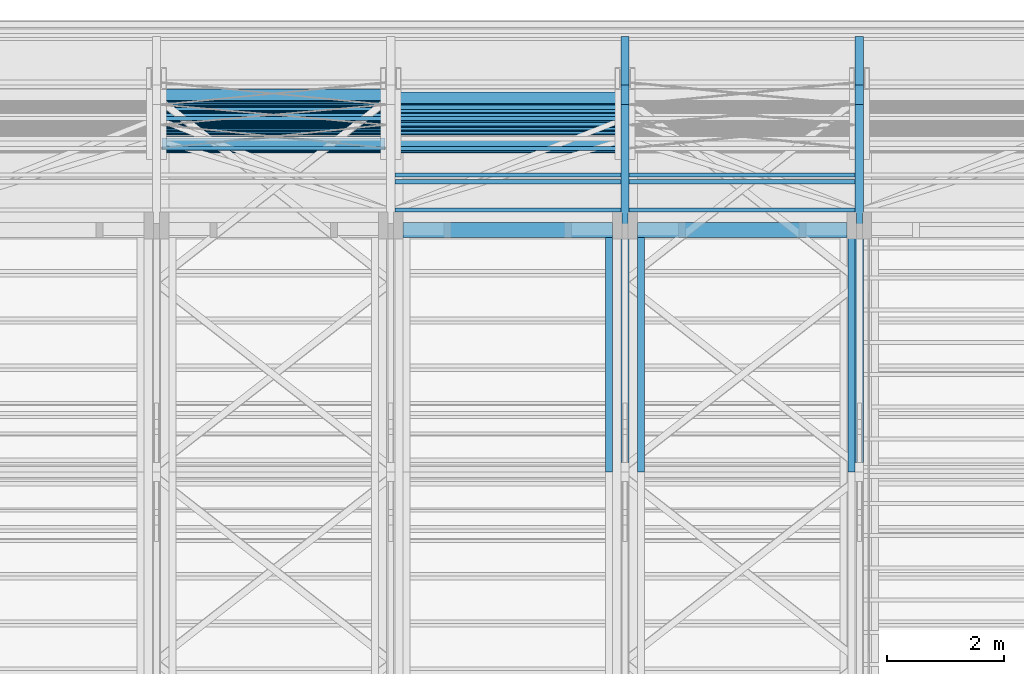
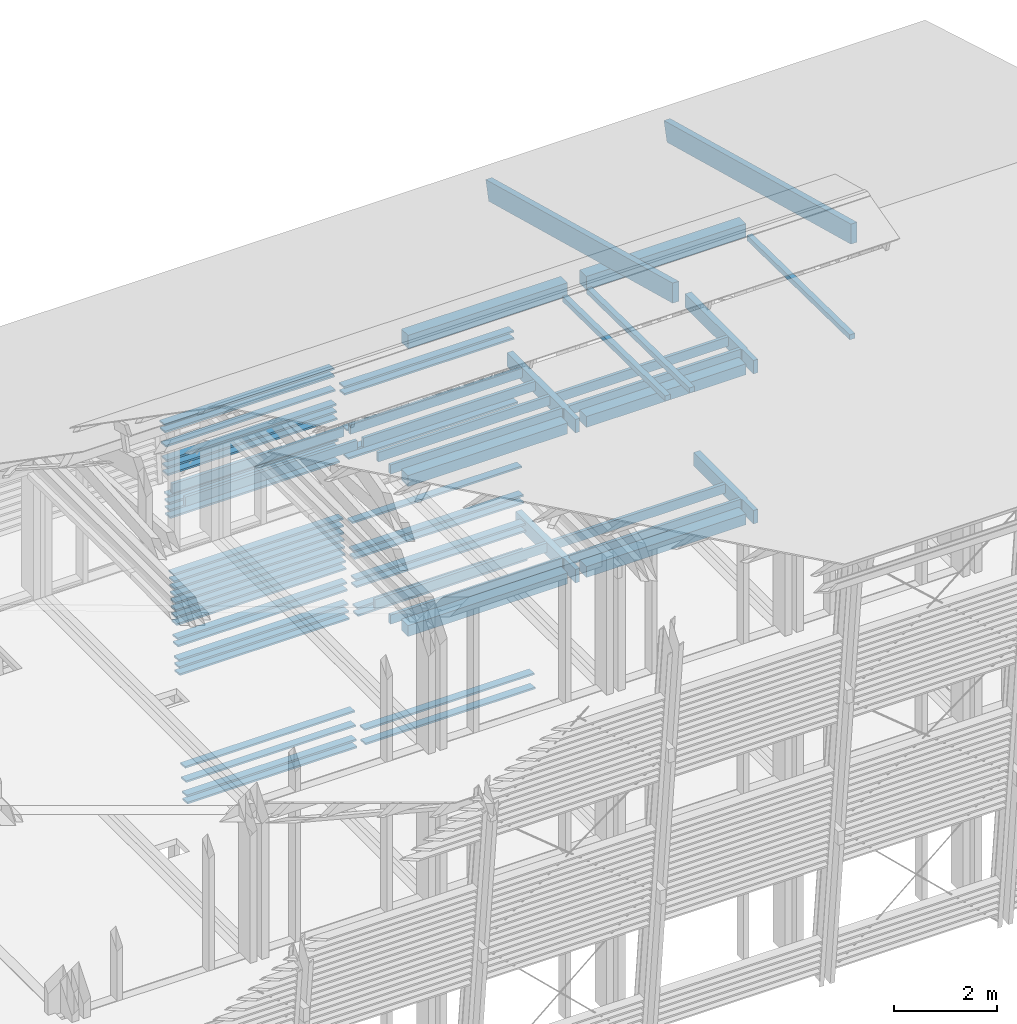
# One storey, part 25 of 48: 68 beams.
"""IFC2X3 building model written with IfcOpenShell, lengths in metres."""

from ifc_helpers import new_model, si_unit, direction, frame, origin_with_axes, place, context, subcontext, project, spatial, faceted_brep, material, element, save


model = new_model("IFC2X3")

# Units and contexts
model_context = context("Model", 3, precision=1e-06, world=origin_with_axes(), true_north=direction((0.0, 1.0, 0.0)))
body_context = subcontext(model_context, "Body", "Model", "MODEL_VIEW")
ifc_project = project(units=[si_unit("LENGTHUNIT", "METRE"), si_unit("AREAUNIT", "SQUARE_METRE"), si_unit("VOLUMEUNIT", "CUBIC_METRE"), si_unit("PLANEANGLEUNIT", "RADIAN")], contexts=[model_context])

# Site, building, storey
site_placement = place(None, origin_with_axes())
site = spatial("IfcSite", under=ifc_project, at=site_placement, CompositionType="ELEMENT")
building_placement = place(site_placement, origin_with_axes())
building = spatial("IfcBuilding", under=site, at=building_placement, Name="Building 1", CompositionType="ELEMENT")
storey_placement = place(building_placement, origin_with_axes())
storey = spatial("IfcBuildingStorey", under=building, at=storey_placement, Name="Storey 1", CompositionType="ELEMENT", Elevation=0.0)

# Beams
ifc_material_1 = material(Name="Moabi")
for number, where, z_axis, x_axis, name in (
    (1, (61.3927441, -182.8370582, 8.3510909), (0.0, -0.9945219, 0.1045285), (-1.0, 0.0, 0.0), "garde corp"),
    (2, (61.3927441, -182.9875792, 6.9189793), (0.0, -0.9945219, 0.1045285), (-1.0, 0.0, 0.0), "garde corp"),
    (3, (61.3927441, -182.920681, 7.5554733), (0.0, -0.9945219, 0.1045285), (-1.0, 0.0, 0.0), "garde corp"),
):
    element("IfcBeam", number, at=place(storey_placement, frame(where, z_axis=z_axis, x_axis=x_axis)), inside=storey, material=ifc_material_1, Name=name, context=body_context, shape_type="Brep", body=[
        faceted_brep([(3.806, -0.02, 0.1), (3.806, 0.02, 0.1), (0.0, 0.02, 0.1), (0.0, -0.02, 0.1), (3.806, 0.02, -0.1), (0.0, 0.02, -0.1), (3.806, -0.02, -0.1), (0.0, -0.02, -0.1)], [[[0, 1, 2, 3]], [[1, 4, 5, 2]], [[4, 6, 7, 5]], [[6, 0, 3, 7]], [[1, 0, 6, 4]], [[7, 3, 2, 5]]]),
    ])
ifc_material_2 = material(Name="GL28h")
for number, where, z_axis, x_axis, name in (
    (4, (61.2197437, -185.2055702, 10.7599677), (0.0, 0.0149983, 0.9998875), (0.0, -0.9998875, 0.0149983), "Sous-glace"),
    (5, (61.7597437, -185.2055702, 10.7599682), (0.0, 0.0149983, 0.9998875), (0.0, -0.9998875, 0.0149983), "Sous-glace"),
):
    element("IfcBeam", number, at=place(storey_placement, frame(where, z_axis=z_axis, x_axis=x_axis)), inside=storey, material=ifc_material_2, Name=name, context=body_context, shape_type="Brep", body=[
        faceted_brep([(4.0038138, -0.06, 0.06), (4.0020138, -0.06, -0.06), (4.0020138, 0.06, -0.06), (4.0038138, 0.06, 0.06), (0.0, -0.06, -0.06), (0.0, 0.06, -0.06), (0.0018, -0.06, 0.06), (0.0018, 0.06, 0.06)], [[[0, 1, 2, 3]], [[2, 1, 4, 5]], [[1, 0, 6, 4]], [[5, 4, 6, 7]], [[0, 3, 7, 6]], [[3, 2, 5, 7]]]),
    ])
beam_1_placement = place(storey_placement, frame((61.3927441, -182.9708546, 7.0781028), z_axis=(0.0, -0.9945219, 0.1045285), x_axis=(-1.0, 0.0, 0.0)))
element("IfcBeam", 6, at=beam_1_placement, inside=storey, material=ifc_material_1, Name="garde corp", context=body_context, shape_type="Brep", body=[
    faceted_brep([(3.806, -0.02, 0.1), (3.806, 0.02, 0.1), (0.0, 0.02, 0.1), (0.0, -0.02, 0.1), (3.806, 0.02, -0.1), (0.0, 0.02, -0.1), (3.806, -0.02, -0.1), (0.0, -0.02, -0.1)], [[[0, 1, 2, 3]], [[1, 4, 5, 2]], [[4, 6, 7, 5]], [[6, 0, 3, 7]], [[1, 0, 6, 4]], [[7, 3, 2, 5]]]),
])
beam_2_placement = place(storey_placement, frame((61.6997437, -185.0764881, 10.94), z_axis=(0.0, 0.0, 1.0), x_axis=(1.0, 0.0, 0.0)))
element("IfcBeam", 7, at=beam_2_placement, inside=storey, material=ifc_material_2, Name="Buton", context=body_context, shape_type="Brep", body=[
    faceted_brep([(0.0, 0.13, 0.16), (0.0, -0.13, 0.16), (3.58, -0.13, 0.16), (3.58, 0.13, 0.16), (0.0, -0.13, -0.16), (3.58, -0.13, -0.16), (0.0, 0.13, -0.16), (3.58, 0.13, -0.16)], [[[0, 1, 2, 3]], [[2, 1, 4, 5]], [[1, 0, 6, 4]], [[5, 4, 6, 7]], [[3, 2, 5, 7]], [[0, 3, 7, 6]]]),
])
beam_3_placement = place(storey_placement, frame((61.3927439, -183.2718966, 4.2138798), z_axis=(0.0, -0.9945219, 0.1045285), x_axis=(-1.0, 0.0, 0.0)))
element("IfcBeam", 8, at=beam_3_placement, inside=storey, material=ifc_material_1, Name="garde corp", context=body_context, shape_type="Brep", body=[
    faceted_brep([(3.8048051, -0.02, 0.1), (3.8048051, 0.02, 0.1), (0.0, 0.02, 0.1), (0.0, -0.02, 0.1), (3.8048051, 0.02, -0.1), (0.0, 0.02, -0.1), (3.8048051, -0.02, -0.1), (0.0, -0.02, -0.1)], [[[0, 1, 2, 3]], [[1, 4, 5, 2]], [[4, 6, 7, 5]], [[6, 0, 3, 7]], [[1, 0, 6, 4]], [[7, 3, 2, 5]]]),
])
beam_4_placement = place(storey_placement, frame((57.5597437, -184.7314881, 4.139), z_axis=(0.0, 0.0, 1.0), x_axis=(1.0, 0.0, 0.0)))
element("IfcBeam", 9, at=beam_4_placement, inside=storey, material=ifc_material_2, Name="Solive", context=body_context, shape_type="Brep", body=[
    faceted_brep([(3.86, 0.035, 0.11), (3.86, 0.035, -0.11), (0.0, 0.035, -0.11), (0.0, 0.035, 0.11), (3.86, -0.035, -0.11), (0.0, -0.035, -0.11), (3.86, -0.035, 0.11), (0.0, -0.035, 0.11)], [[[0, 1, 2, 3]], [[1, 4, 5, 2]], [[4, 6, 7, 5]], [[6, 0, 3, 7]], [[1, 0, 6, 4]], [[7, 3, 2, 5]]]),
])
beam_5_placement = place(storey_placement, frame((57.3927437, -182.77016, 8.9875849), z_axis=(0.0, -0.9945219, 0.1045285), x_axis=(-1.0, 0.0, 0.0)))
element("IfcBeam", 10, at=beam_5_placement, inside=storey, material=ifc_material_1, Name="garde corp", context=body_context, shape_type="Brep", body=[
    faceted_brep([(3.806, -0.02, 0.1), (3.806, 0.02, 0.1), (0.0, 0.02, 0.1), (0.0, -0.02, 0.1), (3.806, 0.02, -0.1), (0.0, 0.02, -0.1), (3.806, -0.02, -0.1), (0.0, -0.02, -0.1)], [[[0, 1, 2, 3]], [[1, 4, 5, 2]], [[4, 6, 7, 5]], [[6, 0, 3, 7]], [[1, 0, 6, 4]], [[7, 3, 2, 5]]]),
])
beam_6_placement = place(storey_placement, frame((61.3927439, -183.221723, 4.6912503), z_axis=(0.0, -0.9945219, 0.1045285), x_axis=(-1.0, 0.0, 0.0)))
element("IfcBeam", 11, at=beam_6_placement, inside=storey, material=ifc_material_1, Name="garde corp", context=body_context, shape_type="Brep", body=[
    faceted_brep([(3.8047071, -0.02, 0.1), (3.8047079, 0.02, 0.1), (0.0, 0.02, 0.1), (0.0, -0.02, 0.1), (3.8047071, 0.02, -0.1), (0.0, 0.02, -0.1), (3.8047071, -0.02, -0.1), (0.0, -0.02, -0.1)], [[[0, 1, 2, 3]], [[1, 4, 5, 2]], [[4, 6, 7, 5]], [[6, 0, 3, 7]], [[1, 0, 6, 4]], [[7, 3, 2, 5]]]),
])
beam_7_placement = place(storey_placement, frame((57.3927441, -182.7868846, 8.8284614), z_axis=(0.0, -0.9945219, 0.1045285), x_axis=(-1.0, 0.0, 0.0)))
element("IfcBeam", 12, at=beam_7_placement, inside=storey, material=ifc_material_1, Name="garde corp", context=body_context, shape_type="Brep", body=[
    faceted_brep([(3.806, -0.02, 0.1), (3.806, 0.02, 0.1), (0.0, 0.02, 0.1), (0.0, -0.02, 0.1), (3.806, 0.02, -0.1), (0.0, 0.02, -0.1), (3.806, -0.02, -0.1), (0.0, -0.02, -0.1)], [[[0, 1, 2, 3]], [[1, 4, 5, 2]], [[4, 6, 7, 5]], [[6, 0, 3, 7]], [[1, 0, 6, 4]], [[7, 3, 2, 5]]]),
])
beam_8_placement = place(storey_placement, frame((61.3927439, -183.1381002, 5.4868678), z_axis=(0.0, -0.9945219, 0.1045285), x_axis=(-1.0, 0.0, 0.0)))
element("IfcBeam", 13, at=beam_8_placement, inside=storey, material=ifc_material_1, Name="garde corp", context=body_context, shape_type="Brep", body=[
    faceted_brep([(3.8047071, -0.02, 0.1), (3.8047079, 0.02, 0.1), (0.0, 0.02, 0.1), (0.0, -0.02, 0.1), (3.8047077, 0.02, -0.1), (0.0, 0.02, -0.1), (3.8047071, -0.02, -0.1), (0.0, -0.02, -0.1)], [[[0, 1, 2, 3]], [[1, 4, 5, 2]], [[4, 6, 7, 5]], [[6, 0, 3, 7]], [[1, 0, 6, 4]], [[7, 3, 2, 5]]]),
])
beam_9_placement = place(storey_placement, frame((57.3927439, -183.1882738, 5.0094973), z_axis=(0.0, -0.9945219, 0.1045285), x_axis=(-1.0, 0.0, 0.0)))
element("IfcBeam", 14, at=beam_9_placement, inside=storey, material=ifc_material_1, Name="garde corp", context=body_context, shape_type="Brep", body=[
    faceted_brep([(3.8047077, -0.02, 0.1), (3.8047077, 0.02, 0.1), (0.0, 0.02, 0.1), (0.0, -0.02, 0.1), (3.8047077, 0.02, -0.1), (0.0, 0.02, -0.1), (3.8047077, -0.02, -0.1), (0.0, -0.02, -0.1)], [[[0, 1, 2, 3]], [[1, 4, 5, 2]], [[4, 6, 7, 5]], [[6, 0, 3, 7]], [[1, 0, 6, 4]], [[7, 3, 2, 5]]]),
])
beam_10_placement = place(storey_placement, frame((57.3927439, -183.221723, 4.6912503), z_axis=(0.0, -0.9945219, 0.1045285), x_axis=(-1.0, 0.0, 0.0)))
element("IfcBeam", 15, at=beam_10_placement, inside=storey, material=ifc_material_1, Name="garde corp", context=body_context, shape_type="Brep", body=[
    faceted_brep([(3.8047071, -0.02, 0.1), (3.8047079, 0.02, 0.1), (0.0, 0.02, 0.1), (0.0, -0.02, 0.1), (3.8047071, 0.02, -0.1), (0.0, 0.02, -0.1), (3.8047071, -0.02, -0.1), (0.0, -0.02, -0.1)], [[[0, 1, 2, 3]], [[1, 4, 5, 2]], [[4, 6, 7, 5]], [[6, 0, 3, 7]], [[1, 0, 6, 4]], [[7, 3, 2, 5]]]),
])
for number, where, z_axis, x_axis, name in (
    (16, (57.3927439, -183.1715493, 5.1686208), (0.0, -0.9945219, 0.1045285), (-1.0, 0.0, 0.0), "garde corp"),
    (17, (57.3927439, -183.2049984, 4.8503738), (0.0, -0.9945219, 0.1045285), (-1.0, 0.0, 0.0), "garde corp"),
):
    element("IfcBeam", number, at=place(storey_placement, frame(where, z_axis=z_axis, x_axis=x_axis)), inside=storey, material=ifc_material_1, Name=name, context=body_context, shape_type="Brep", body=[
        faceted_brep([(3.8048053, -0.02, 0.1), (3.8048053, 0.02, 0.1), (0.0, 0.02, 0.1), (0.0, -0.02, 0.1), (3.8048051, 0.02, -0.1), (0.0, 0.02, -0.1), (3.8048053, -0.02, -0.1), (0.0, -0.02, -0.1)], [[[0, 1, 2, 3]], [[1, 4, 5, 2]], [[4, 6, 7, 5]], [[6, 0, 3, 7]], [[1, 0, 6, 4]], [[7, 3, 2, 5]]]),
    ])
for number, where, z_axis, x_axis, name in (
    (18, (57.3927441, -183.6565614, 0.5540392), (0.0, -0.9945219, 0.1045285), (-1.0, 0.0, 0.0), "garde corp"),
    (19, (57.3927437, -182.8705073, 8.0328439), (0.0, -0.9945219, 0.1045285), (-1.0, 0.0, 0.0), "garde corp"),
):
    element("IfcBeam", number, at=place(storey_placement, frame(where, z_axis=z_axis, x_axis=x_axis)), inside=storey, material=ifc_material_1, Name=name, context=body_context, shape_type="Brep", body=[
        faceted_brep([(3.806, -0.02, 0.1), (3.806, 0.02, 0.1), (0.0, 0.02, 0.1), (0.0, -0.02, 0.1), (3.806, 0.02, -0.1), (0.0, 0.02, -0.1), (3.806, -0.02, -0.1), (0.0, -0.02, -0.1)], [[[0, 1, 2, 3]], [[1, 4, 5, 2]], [[4, 6, 7, 5]], [[6, 0, 3, 7]], [[1, 0, 6, 4]], [[7, 3, 2, 5]]]),
    ])
beam_11_placement = place(storey_placement, frame((57.3927439, -183.1548247, 5.3277443), z_axis=(0.0, -0.9945219, 0.1045285), x_axis=(-1.0, 0.0, 0.0)))
element("IfcBeam", 20, at=beam_11_placement, inside=storey, material=ifc_material_1, Name="garde corp", context=body_context, shape_type="Brep", body=[
    faceted_brep([(3.8048053, -0.02, 0.1), (3.8048053, 0.02, 0.1), (0.0, 0.02, 0.1), (0.0, -0.02, 0.1), (3.8048051, 0.02, -0.1), (0.0, 0.02, -0.1), (3.8048053, -0.02, -0.1), (0.0, -0.02, -0.1)], [[[0, 1, 2, 3]], [[1, 4, 5, 2]], [[4, 6, 7, 5]], [[6, 0, 3, 7]], [[1, 0, 6, 4]], [[7, 3, 2, 5]]]),
])
beam_12_placement = place(storey_placement, frame((57.3927439, -183.2718966, 4.2138798), z_axis=(0.0, -0.9945219, 0.1045285), x_axis=(-1.0, 0.0, 0.0)))
element("IfcBeam", 21, at=beam_12_placement, inside=storey, material=ifc_material_1, Name="garde corp", context=body_context, shape_type="Brep", body=[
    faceted_brep([(3.8048051, -0.02, 0.1), (3.8048051, 0.02, 0.1), (0.0, 0.02, 0.1), (0.0, -0.02, 0.1), (3.8048051, 0.02, -0.1), (0.0, 0.02, -0.1), (3.8048051, -0.02, -0.1), (0.0, -0.02, -0.1)], [[[0, 1, 2, 3]], [[1, 4, 5, 2]], [[4, 6, 7, 5]], [[6, 0, 3, 7]], [[1, 0, 6, 4]], [[7, 3, 2, 5]]]),
])
beam_13_placement = place(storey_placement, frame((57.3927441, -183.5729386, 1.3496567), z_axis=(0.0, -0.9945219, 0.1045285), x_axis=(-1.0, 0.0, 0.0)))
element("IfcBeam", 22, at=beam_13_placement, inside=storey, material=ifc_material_1, Name="garde corp", context=body_context, shape_type="Brep", body=[
    faceted_brep([(3.806, -0.02, 0.1), (3.806, 0.02, 0.1), (0.0, 0.02, 0.1), (0.0, -0.02, 0.1), (3.806, 0.02, -0.1), (0.0, 0.02, -0.1), (3.806, -0.02, -0.1), (0.0, -0.02, -0.1)], [[[0, 1, 2, 3]], [[1, 4, 5, 2]], [[4, 6, 7, 5]], [[6, 0, 3, 7]], [[1, 0, 6, 4]], [[7, 3, 2, 5]]]),
])
beam_14_placement = place(storey_placement, frame((57.3927439, -183.3555194, 3.4182623), z_axis=(0.0, -0.9945219, 0.1045285), x_axis=(-1.0, 0.0, 0.0)))
element("IfcBeam", 23, at=beam_14_placement, inside=storey, material=ifc_material_1, Name="garde corp", context=body_context, shape_type="Brep", body=[
    faceted_brep([(3.8047073, -0.02, 0.1), (3.8047077, 0.02, 0.1), (0.0, 0.02, 0.1), (0.0, -0.02, 0.1), (3.8047077, 0.02, -0.1), (0.0, 0.02, -0.1), (3.8047077, -0.02, -0.1), (0.0, -0.02, -0.1)], [[[0, 1, 2, 3]], [[1, 4, 5, 2]], [[4, 6, 7, 5]], [[6, 0, 3, 7]], [[1, 0, 6, 4]], [[7, 3, 2, 5]]]),
])
for number, where, z_axis, x_axis, name in (
    (24, (57.3927441, -182.9374055, 7.3963498), (0.0, -0.9945219, 0.1045285), (-1.0, 0.0, 0.0), "garde corp"),
    (25, (57.3927441, -182.9541301, 7.2372263), (0.0, -0.9945219, 0.1045285), (-1.0, 0.0, 0.0), "garde corp"),
):
    element("IfcBeam", number, at=place(storey_placement, frame(where, z_axis=z_axis, x_axis=x_axis)), inside=storey, material=ifc_material_1, Name=name, context=body_context, shape_type="Brep", body=[
        faceted_brep([(3.806, -0.02, 0.1), (3.806, 0.02, 0.1), (0.0, 0.02, 0.1), (0.0, -0.02, 0.1), (3.806, 0.02, -0.1), (0.0, 0.02, -0.1), (3.806, -0.02, -0.1), (0.0, -0.02, -0.1)], [[[0, 1, 2, 3]], [[1, 4, 5, 2]], [[4, 6, 7, 5]], [[6, 0, 3, 7]], [[1, 0, 6, 4]], [[7, 3, 2, 5]]]),
    ])
beam_15_placement = place(storey_placement, frame((57.3927439, -183.1213756, 5.6459913), z_axis=(0.0, -0.9945219, 0.1045285), x_axis=(-1.0, 0.0, 0.0)))
element("IfcBeam", 26, at=beam_15_placement, inside=storey, material=ifc_material_1, Name="garde corp", context=body_context, shape_type="Brep", body=[
    faceted_brep([(3.8048053, -0.02, 0.1), (3.8048053, 0.02, 0.1), (0.0, 0.02, 0.1), (0.0, -0.02, 0.1), (3.8048051, 0.02, -0.1), (0.0, 0.02, -0.1), (3.8048053, -0.02, -0.1), (0.0, -0.02, -0.1)], [[[0, 1, 2, 3]], [[1, 4, 5, 2]], [[4, 6, 7, 5]], [[6, 0, 3, 7]], [[1, 0, 6, 4]], [[7, 3, 2, 5]]]),
])
for number, where, z_axis, x_axis, name in (
    (27, (57.3927441, -183.6063877, 1.0314097), (0.0, -0.9945219, 0.1045285), (-1.0, 0.0, 0.0), "garde corp"),
    (28, (57.3927441, -182.8872319, 7.8737203), (0.0, -0.9945219, 0.1045285), (-1.0, 0.0, 0.0), "garde corp"),
):
    element("IfcBeam", number, at=place(storey_placement, frame(where, z_axis=z_axis, x_axis=x_axis)), inside=storey, material=ifc_material_1, Name=name, context=body_context, shape_type="Brep", body=[
        faceted_brep([(3.806, -0.02, 0.1), (3.806, 0.02, 0.1), (0.0, 0.02, 0.1), (0.0, -0.02, 0.1), (3.806, 0.02, -0.1), (0.0, 0.02, -0.1), (3.806, -0.02, -0.1), (0.0, -0.02, -0.1)], [[[0, 1, 2, 3]], [[1, 4, 5, 2]], [[4, 6, 7, 5]], [[6, 0, 3, 7]], [[1, 0, 6, 4]], [[7, 3, 2, 5]]]),
    ])
beam_16_placement = place(storey_placement, frame((57.3927439, -183.2886212, 4.0547563), z_axis=(0.0, -0.9945219, 0.1045285), x_axis=(-1.0, 0.0, 0.0)))
element("IfcBeam", 29, at=beam_16_placement, inside=storey, material=ifc_material_1, Name="garde corp", context=body_context, shape_type="Brep", body=[
    faceted_brep([(3.8048051, -0.02, 0.1), (3.8048051, 0.02, 0.1), (0.0, 0.02, 0.1), (0.0, -0.02, 0.1), (3.8048051, 0.02, -0.1), (0.0, 0.02, -0.1), (3.8048051, -0.02, -0.1), (0.0, -0.02, -0.1)], [[[0, 1, 2, 3]], [[1, 4, 5, 2]], [[4, 6, 7, 5]], [[6, 0, 3, 7]], [[1, 0, 6, 4]], [[7, 3, 2, 5]]]),
])
beam_17_placement = place(storey_placement, frame((57.3927441, -182.8203337, 8.5102144), z_axis=(0.0, -0.9945219, 0.1045285), x_axis=(-1.0, 0.0, 0.0)))
element("IfcBeam", 30, at=beam_17_placement, inside=storey, material=ifc_material_1, Name="garde corp", context=body_context, shape_type="Brep", body=[
    faceted_brep([(3.806, -0.02, 0.1), (3.806, 0.02, 0.1), (0.0, 0.02, 0.1), (0.0, -0.02, 0.1), (3.806, 0.02, -0.1), (0.0, 0.02, -0.1), (3.806, -0.02, -0.1), (0.0, -0.02, -0.1)], [[[0, 1, 2, 3]], [[1, 4, 5, 2]], [[4, 6, 7, 5]], [[6, 0, 3, 7]], [[1, 0, 6, 4]], [[7, 3, 2, 5]]]),
])
beam_18_placement = place(storey_placement, frame((57.3927439, -183.1381002, 5.4868678), z_axis=(0.0, -0.9945219, 0.1045285), x_axis=(-1.0, 0.0, 0.0)))
element("IfcBeam", 31, at=beam_18_placement, inside=storey, material=ifc_material_1, Name="garde corp", context=body_context, shape_type="Brep", body=[
    faceted_brep([(3.8047071, -0.02, 0.1), (3.8047079, 0.02, 0.1), (0.0, 0.02, 0.1), (0.0, -0.02, 0.1), (3.8047077, 0.02, -0.1), (0.0, 0.02, -0.1), (3.8047071, -0.02, -0.1), (0.0, -0.02, -0.1)], [[[0, 1, 2, 3]], [[1, 4, 5, 2]], [[4, 6, 7, 5]], [[6, 0, 3, 7]], [[1, 0, 6, 4]], [[7, 3, 2, 5]]]),
])
for number, where, z_axis, x_axis, name in (
    (32, (57.3927441, -182.8537828, 8.1919674), (0.0, -0.9945219, 0.1045285), (-1.0, 0.0, 0.0), "garde corp"),
    (33, (57.3927441, -182.9708546, 7.0781028), (0.0, -0.9945219, 0.1045285), (-1.0, 0.0, 0.0), "garde corp"),
    (34, (61.3927441, -183.6231123, 0.8722862), (0.0, -0.9945219, 0.1045285), (-1.0, 0.0, 0.0), "garde corp"),
):
    element("IfcBeam", number, at=place(storey_placement, frame(where, z_axis=z_axis, x_axis=x_axis)), inside=storey, material=ifc_material_1, Name=name, context=body_context, shape_type="Brep", body=[
        faceted_brep([(3.806, -0.02, 0.1), (3.806, 0.02, 0.1), (0.0, 0.02, 0.1), (0.0, -0.02, 0.1), (3.806, 0.02, -0.1), (0.0, 0.02, -0.1), (3.806, -0.02, -0.1), (0.0, -0.02, -0.1)], [[[0, 1, 2, 3]], [[1, 4, 5, 2]], [[4, 6, 7, 5]], [[6, 0, 3, 7]], [[1, 0, 6, 4]], [[7, 3, 2, 5]]]),
    ])
beam_19_placement = place(storey_placement, frame((57.5597437, -184.1344693, 4.139), z_axis=(0.0, 0.0, 1.0), x_axis=(1.0, 0.0, 0.0)))
element("IfcBeam", 35, at=beam_19_placement, inside=storey, material=ifc_material_2, Name="Solive", context=body_context, shape_type="Brep", body=[
    faceted_brep([(3.86, 0.035, 0.11), (3.86, 0.035, -0.11), (0.0, 0.035, -0.11), (0.0, 0.035, 0.11), (3.86, -0.035, -0.11), (0.0, -0.035, -0.11), (3.86, -0.035, 0.11), (0.0, -0.035, 0.11)], [[[0, 1, 2, 3]], [[1, 4, 5, 2]], [[4, 6, 7, 5]], [[6, 0, 3, 7]], [[1, 0, 6, 4]], [[7, 3, 2, 5]]]),
])
beam_20_placement = place(storey_placement, frame((61.3927441, -183.6565614, 0.5540392), z_axis=(0.0, -0.9945219, 0.1045285), x_axis=(-1.0, 0.0, 0.0)))
element("IfcBeam", 36, at=beam_20_placement, inside=storey, material=ifc_material_1, Name="garde corp", context=body_context, shape_type="Brep", body=[
    faceted_brep([(3.806, -0.02, 0.1), (3.806, 0.02, 0.1), (0.0, 0.02, 0.1), (0.0, -0.02, 0.1), (3.806, 0.02, -0.1), (0.0, 0.02, -0.1), (3.806, -0.02, -0.1), (0.0, -0.02, -0.1)], [[[0, 1, 2, 3]], [[1, 4, 5, 2]], [[4, 6, 7, 5]], [[6, 0, 3, 7]], [[1, 0, 6, 4]], [[7, 3, 2, 5]]]),
])
beam_21_placement = place(storey_placement, frame((57.3927439, -183.2384475, 4.5321268), z_axis=(0.0, -0.9945219, 0.1045285), x_axis=(-1.0, 0.0, 0.0)))
element("IfcBeam", 37, at=beam_21_placement, inside=storey, material=ifc_material_1, Name="garde corp", context=body_context, shape_type="Brep", body=[
    faceted_brep([(3.8047077, -0.02, 0.1), (3.8047077, 0.02, 0.1), (0.0, 0.02, 0.1), (0.0, -0.02, 0.1), (3.8047077, 0.02, -0.1), (0.0, 0.02, -0.1), (3.8047077, -0.02, -0.1), (0.0, -0.02, -0.1)], [[[0, 1, 2, 3]], [[1, 4, 5, 2]], [[4, 6, 7, 5]], [[6, 0, 3, 7]], [[1, 0, 6, 4]], [[7, 3, 2, 5]]]),
])
beam_22_placement = place(storey_placement, frame((57.3927441, -182.9875792, 6.9189793), z_axis=(0.0, -0.9945219, 0.1045285), x_axis=(-1.0, 0.0, 0.0)))
element("IfcBeam", 38, at=beam_22_placement, inside=storey, material=ifc_material_1, Name="garde corp", context=body_context, shape_type="Brep", body=[
    faceted_brep([(3.806, -0.02, 0.1), (3.806, 0.02, 0.1), (0.0, 0.02, 0.1), (0.0, -0.02, 0.1), (3.806, 0.02, -0.1), (0.0, 0.02, -0.1), (3.806, -0.02, -0.1), (0.0, -0.02, -0.1)], [[[0, 1, 2, 3]], [[1, 4, 5, 2]], [[4, 6, 7, 5]], [[6, 0, 3, 7]], [[1, 0, 6, 4]], [[7, 3, 2, 5]]]),
])
beam_23_placement = place(storey_placement, frame((61.5597437, -184.1344693, 4.139), z_axis=(0.0, 0.0, 1.0), x_axis=(1.0, 0.0, 0.0)))
element("IfcBeam", 39, at=beam_23_placement, inside=storey, material=ifc_material_2, Name="Solive", context=body_context, shape_type="Brep", body=[
    faceted_brep([(3.86, 0.035, 0.11), (3.86, 0.035, -0.11), (0.0, 0.035, -0.11), (0.0, 0.035, 0.11), (3.86, -0.035, -0.11), (0.0, -0.035, -0.11), (3.86, -0.035, 0.11), (0.0, -0.035, 0.11)], [[[0, 1, 2, 3]], [[1, 4, 5, 2]], [[4, 6, 7, 5]], [[6, 0, 3, 7]], [[1, 0, 6, 4]], [[7, 3, 2, 5]]]),
])
beam_24_placement = place(storey_placement, frame((61.3927439, -183.2049984, 4.8503738), z_axis=(0.0, -0.9945219, 0.1045285), x_axis=(-1.0, 0.0, 0.0)))
element("IfcBeam", 40, at=beam_24_placement, inside=storey, material=ifc_material_1, Name="garde corp", context=body_context, shape_type="Brep", body=[
    faceted_brep([(3.8048053, -0.02, 0.1), (3.8048053, 0.02, 0.1), (0.0, 0.02, 0.1), (0.0, -0.02, 0.1), (3.8048051, 0.02, -0.1), (0.0, 0.02, -0.1), (3.8048053, -0.02, -0.1), (0.0, -0.02, -0.1)], [[[0, 1, 2, 3]], [[1, 4, 5, 2]], [[4, 6, 7, 5]], [[6, 0, 3, 7]], [[1, 0, 6, 4]], [[7, 3, 2, 5]]]),
])
beam_25_placement = place(storey_placement, frame((61.3927439, -183.2886212, 4.0547563), z_axis=(0.0, -0.9945219, 0.1045285), x_axis=(-1.0, 0.0, 0.0)))
element("IfcBeam", 41, at=beam_25_placement, inside=storey, material=ifc_material_1, Name="garde corp", context=body_context, shape_type="Brep", body=[
    faceted_brep([(3.8048051, -0.02, 0.1), (3.8048051, 0.02, 0.1), (0.0, 0.02, 0.1), (0.0, -0.02, 0.1), (3.8048051, 0.02, -0.1), (0.0, 0.02, -0.1), (3.8048051, -0.02, -0.1), (0.0, -0.02, -0.1)], [[[0, 1, 2, 3]], [[1, 4, 5, 2]], [[4, 6, 7, 5]], [[6, 0, 3, 7]], [[1, 0, 6, 4]], [[7, 3, 2, 5]]]),
])
beam_26_placement = place(storey_placement, frame((61.6997437, -185.0764881, 4.085), z_axis=(0.0, 0.0, 1.0), x_axis=(1.0, 0.0, 0.0)))
element("IfcBeam", 42, at=beam_26_placement, inside=storey, material=ifc_material_2, Name="Buton", context=body_context, shape_type="Brep", body=[
    faceted_brep([(0.0, 0.13, 0.13), (0.0, -0.13, 0.13), (3.58, -0.13, 0.13), (3.58, 0.13, 0.13), (0.0, -0.13, -0.13), (3.58, -0.13, -0.13), (0.0, 0.13, -0.13), (3.58, 0.13, -0.13)], [[[0, 1, 2, 3]], [[2, 1, 4, 5]], [[1, 0, 6, 4]], [[5, 4, 6, 7]], [[0, 3, 7, 6]], [[3, 2, 5, 7]]]),
])
beam_27_placement = place(storey_placement, frame((61.3927439, -183.3555194, 3.4182623), z_axis=(0.0, -0.9945219, 0.1045285), x_axis=(-1.0, 0.0, 0.0)))
element("IfcBeam", 43, at=beam_27_placement, inside=storey, material=ifc_material_1, Name="garde corp", context=body_context, shape_type="Brep", body=[
    faceted_brep([(3.8047073, -0.02, 0.1), (3.8047077, 0.02, 0.1), (0.0, 0.02, 0.1), (0.0, -0.02, 0.1), (3.8047077, 0.02, -0.1), (0.0, 0.02, -0.1), (3.8047077, -0.02, -0.1), (0.0, -0.02, -0.1)], [[[0, 1, 2, 3]], [[1, 4, 5, 2]], [[4, 6, 7, 5]], [[6, 0, 3, 7]], [[1, 0, 6, 4]], [[7, 3, 2, 5]]]),
])
beam_28_placement = place(storey_placement, frame((61.3927441, -182.8203337, 8.5102144), z_axis=(0.0, -0.9945219, 0.1045285), x_axis=(-1.0, 0.0, 0.0)))
element("IfcBeam", 44, at=beam_28_placement, inside=storey, material=ifc_material_1, Name="garde corp", context=body_context, shape_type="Brep", body=[
    faceted_brep([(3.806, -0.02, 0.1), (3.806, 0.02, 0.1), (0.0, 0.02, 0.1), (0.0, -0.02, 0.1), (3.806, 0.02, -0.1), (0.0, 0.02, -0.1), (3.806, -0.02, -0.1), (0.0, -0.02, -0.1)], [[[0, 1, 2, 3]], [[1, 4, 5, 2]], [[4, 6, 7, 5]], [[6, 0, 3, 7]], [[1, 0, 6, 4]], [[7, 3, 2, 5]]]),
])
beam_29_placement = place(storey_placement, frame((53.5597433, -183.6814881, 7.699), z_axis=(0.0, 0.0, 1.0), x_axis=(1.0, 0.0, 0.0)))
element("IfcBeam", 45, at=beam_29_placement, inside=storey, material=ifc_material_2, Name="Solive", context=body_context, shape_type="Brep", body=[
    faceted_brep([(3.8600004, -0.035, -0.11), (3.8600004, 0.035, -0.11), (3.8600004, 0.035, 0.11), (3.8600004, -0.035, 0.11), (0.0, 0.035, -0.11), (0.0, 0.035, 0.11), (0.0, -0.035, -0.11), (0.0, -0.035, 0.11)], [[[0, 1, 2, 3]], [[2, 1, 4, 5]], [[1, 0, 6, 4]], [[0, 3, 7, 6]], [[3, 2, 5, 7]], [[7, 5, 4, 6]]]),
])
beam_30_placement = place(storey_placement, frame((61.5597437, -184.2514881, 7.699), z_axis=(0.0, 0.0, 1.0), x_axis=(1.0, 0.0, 0.0)))
element("IfcBeam", 46, at=beam_30_placement, inside=storey, material=ifc_material_2, Name="Solive", context=body_context, shape_type="Brep", body=[
    faceted_brep([(3.86, 0.035, 0.11), (3.86, 0.035, -0.11), (0.0, 0.035, -0.11), (0.0, 0.035, 0.11), (3.86, -0.035, -0.11), (0.0, -0.035, -0.11), (3.86, -0.035, 0.11), (0.0, -0.035, 0.11)], [[[0, 1, 2, 3]], [[1, 4, 5, 2]], [[4, 6, 7, 5]], [[6, 0, 3, 7]], [[1, 0, 6, 4]], [[7, 3, 2, 5]]]),
])
beam_31_placement = place(storey_placement, frame((57.6997437, -185.0764881, 7.645), z_axis=(0.0, 0.0, 1.0), x_axis=(1.0, 0.0, 0.0)))
element("IfcBeam", 47, at=beam_31_placement, inside=storey, material=ifc_material_2, Name="Buton", context=body_context, shape_type="Brep", body=[
    faceted_brep([(0.0, 0.13, 0.13), (0.0, -0.13, 0.13), (3.58, -0.13, 0.13), (3.58, 0.13, 0.13), (0.0, -0.13, -0.13), (3.58, -0.13, -0.13), (0.0, 0.13, -0.13), (3.58, 0.13, -0.13)], [[[0, 1, 2, 3]], [[2, 1, 4, 5]], [[1, 0, 6, 4]], [[5, 4, 6, 7]], [[0, 3, 7, 6]], [[3, 2, 5, 7]]]),
])
for number, where, z_axis, x_axis in (
    (48, (61.5596481, -184.7314881, 7.699), (0.0, 0.0, 1.0), (1.0, 0.0, 0.0)),
    (49, (57.5596481, -184.7314881, 7.699), (0.0, 0.0, 1.0), (1.0, 0.0, 0.0)),
):
    element("IfcBeam", number, at=place(storey_placement, frame(where, z_axis=z_axis, x_axis=x_axis)), inside=storey, material=ifc_material_2, Name="Solive", context=body_context, shape_type="Brep", body=[
        faceted_brep([(3.8600004, -0.035, -0.11), (3.8600956, 0.035, -0.11), (3.8600956, 0.035, 0.11), (3.8600004, -0.035, 0.11), (0.0, 0.035, -0.11), (0.0, 0.035, 0.11), (0.0, -0.035, -0.11), (0.0, -0.035, 0.11)], [[[0, 1, 2, 3]], [[2, 1, 4, 5]], [[1, 0, 6, 4]], [[0, 3, 7, 6]], [[3, 2, 5, 7]], [[7, 5, 4, 6]]]),
    ])
beam_32_placement = place(storey_placement, frame((53.5597437, -183.1714881, 7.699), z_axis=(0.0, 0.0, 1.0), x_axis=(1.0, 0.0, 0.0)))
element("IfcBeam", 50, at=beam_32_placement, inside=storey, material=ifc_material_2, Name="Solive", context=body_context, shape_type="Brep", body=[
    faceted_brep([(3.86, 0.035, 0.11), (3.86, 0.035, -0.11), (0.0, 0.035, -0.11), (0.0, 0.035, 0.11), (3.86, -0.035, -0.11), (0.0, -0.035, -0.11), (3.86, -0.035, 0.11), (0.0, -0.035, 0.11)], [[[0, 1, 2, 3]], [[1, 4, 5, 2]], [[4, 6, 7, 5]], [[6, 0, 3, 7]], [[1, 0, 6, 4]], [[7, 3, 2, 5]]]),
])
beam_33_placement = place(storey_placement, frame((57.5597433, -183.6814881, 7.699), z_axis=(0.0, 0.0, 1.0), x_axis=(1.0, 0.0, 0.0)))
element("IfcBeam", 51, at=beam_33_placement, inside=storey, material=ifc_material_2, Name="Solive", context=body_context, shape_type="Brep", body=[
    faceted_brep([(3.8600004, -0.035, -0.11), (3.8600004, 0.035, -0.11), (3.8600004, 0.035, 0.11), (3.8600004, -0.035, 0.11), (0.0, 0.035, -0.11), (0.0, 0.035, 0.11), (0.0, -0.035, -0.11), (0.0, -0.035, 0.11)], [[[0, 1, 2, 3]], [[2, 1, 4, 5]], [[1, 0, 6, 4]], [[0, 3, 7, 6]], [[3, 2, 5, 7]], [[7, 5, 4, 6]]]),
])
beam_34_placement = place(storey_placement, frame((61.3927439, -183.3387948, 3.5773858), z_axis=(0.0, -0.9945219, 0.1045285), x_axis=(-1.0, 0.0, 0.0)))
element("IfcBeam", 52, at=beam_34_placement, inside=storey, material=ifc_material_1, Name="garde corp", context=body_context, shape_type="Brep", body=[
    faceted_brep([(3.8047077, -0.02, 0.1), (3.8047077, 0.02, 0.1), (0.0, 0.02, 0.1), (0.0, -0.02, 0.1), (3.8047077, 0.02, -0.1), (0.0, 0.02, -0.1), (3.8047077, -0.02, -0.1), (0.0, -0.02, -0.1)], [[[0, 1, 2, 3]], [[1, 4, 5, 2]], [[4, 6, 7, 5]], [[6, 0, 3, 7]], [[1, 0, 6, 4]], [[7, 3, 2, 5]]]),
])
for number, where, z_axis, x_axis in (
    (53, (57.5597437, -183.1714881, 7.699), (0.0, 0.0, 1.0), (1.0, 0.0, 0.0)),
    (54, (57.5597437, -184.2514881, 7.699), (0.0, 0.0, 1.0), (1.0, 0.0, 0.0)),
):
    element("IfcBeam", number, at=place(storey_placement, frame(where, z_axis=z_axis, x_axis=x_axis)), inside=storey, material=ifc_material_2, Name="Solive", context=body_context, shape_type="Brep", body=[
        faceted_brep([(3.86, 0.035, 0.11), (3.86, 0.035, -0.11), (0.0, 0.035, -0.11), (0.0, 0.035, 0.11), (3.86, -0.035, -0.11), (0.0, -0.035, -0.11), (3.86, -0.035, 0.11), (0.0, -0.035, 0.11)], [[[0, 1, 2, 3]], [[1, 4, 5, 2]], [[4, 6, 7, 5]], [[6, 0, 3, 7]], [[1, 0, 6, 4]], [[7, 3, 2, 5]]]),
    ])
for number, where, z_axis, x_axis in (
    (55, (65.4897437, -185.2264881, 4.089), (0.0, 0.0, 1.0), (0.0, 1.0, 0.0)),
    (56, (61.4897437, -185.2264881, 4.089), (0.0, 0.0, 1.0), (0.0, 1.0, 0.0)),
):
    element("IfcBeam", number, at=place(storey_placement, frame(where, z_axis=z_axis, x_axis=x_axis)), inside=storey, material=ifc_material_2, Name="Sommier Coursive", context=body_context, shape_type="Brep", body=[
        faceted_brep([(0.0, 0.05, 0.16), (0.44, 0.05, 0.16), (0.44, 0.05, -0.16), (0.0, 0.05, -0.16), (0.44, 0.07, 0.16), (0.44, 0.07, -0.16), (0.0, -0.05, 0.16), (0.44, -0.05, 0.16), (0.44, -0.07, 0.16), (2.2900003, -0.07, 0.16), (2.2900003, 0.07, 0.16), (0.0, -0.05, -0.16), (0.44, -0.05, -0.16), (0.44, -0.07, -0.16), (2.2900003, 0.07, -0.16), (2.2900003, -0.07, -0.16)], [[[0, 1, 2, 3]], [[1, 4, 5, 2]], [[4, 1, 0, 6, 7, 8, 9, 10]], [[0, 3, 11, 6]], [[11, 12, 7, 6]], [[12, 13, 8, 7]], [[2, 5, 14, 15, 13, 12, 11, 3]], [[8, 13, 15, 9]], [[5, 4, 10, 14]], [[10, 9, 15, 14]]]),
    ])
for number, where, z_axis, x_axis in (
    (57, (61.4897437, -185.2264881, 7.649), (0.0, 0.0, 1.0), (0.0, 1.0, 0.0)),
    (58, (65.4897437, -185.2264881, 7.649), (0.0, 0.0, 1.0), (0.0, 1.0, 0.0)),
):
    element("IfcBeam", number, at=place(storey_placement, frame(where, z_axis=z_axis, x_axis=x_axis)), inside=storey, material=ifc_material_2, Name="Sommier Coursive", context=body_context, shape_type="Brep", body=[
        faceted_brep([(0.0, -0.05, -0.16), (0.44, -0.05, -0.16), (0.44, -0.05, 0.16), (0.0, -0.05, 0.16), (0.44, -0.07, -0.16), (0.44, -0.07, 0.16), (0.0, 0.05, 0.16), (0.0, 0.05, -0.16), (2.6285375, -0.07, 0.16), (2.6285375, 0.07, 0.16), (0.44, 0.07, 0.16), (0.44, 0.05, 0.16), (0.44, 0.05, -0.16), (0.44, 0.07, -0.16), (2.6285375, -0.07, -0.16), (2.6285375, 0.07, -0.16)], [[[0, 1, 2, 3]], [[1, 4, 5, 2]], [[0, 3, 6, 7]], [[3, 2, 5, 8, 9, 10, 11, 6]], [[6, 11, 12, 7]], [[11, 10, 13, 12]], [[5, 4, 14, 8]], [[1, 0, 7, 12, 13, 15, 14, 4]], [[13, 10, 9, 15]], [[9, 8, 14, 15]]]),
    ])
for number, where, z_axis, x_axis in (
    (59, (65.4897437, -181.8355309, 11.197686), (0.0, 0.258819, 0.9659258), (0.0, -0.9659258, 0.258819)),
    (60, (61.4897437, -181.8355309, 11.197686), (0.0, 0.258819, 0.9659258), (0.0, -0.9659258, 0.258819)),
):
    element("IfcBeam", number, at=place(storey_placement, frame(where, z_axis=z_axis, x_axis=x_axis)), inside=storey, material=ifc_material_2, Name="Arbalétrier", context=body_context, shape_type="Brep", body=[
        faceted_brep([(7.4053414, 0.07, -0.23), (7.5285981, 0.07, 0.23), (7.5285981, -0.07, 0.23), (7.4053414, -0.07, -0.23), (0.0, 0.07, 0.23), (0.0, -0.07, 0.23), (0.0, 0.07, -0.23), (0.0, -0.07, -0.23)], [[[0, 1, 2, 3]], [[2, 1, 4, 5]], [[1, 0, 6, 4]], [[0, 3, 7, 6]], [[3, 2, 5, 7]], [[6, 7, 5, 4]]]),
    ])
beam_35_placement = place(storey_placement, frame((57.6997437, -185.0764881, 10.94), z_axis=(0.0, 0.0, 1.0), x_axis=(1.0, 0.0, 0.0)))
element("IfcBeam", 61, at=beam_35_placement, inside=storey, material=ifc_material_2, Name="Buton", context=body_context, shape_type="Brep", body=[
    faceted_brep([(0.0, 0.13, 0.16), (0.0, -0.13, 0.16), (3.58, -0.13, 0.16), (3.58, 0.13, 0.16), (0.0, -0.13, -0.16), (3.58, -0.13, -0.16), (0.0, 0.13, -0.16), (3.58, 0.13, -0.16)], [[[0, 1, 2, 3]], [[2, 1, 4, 5]], [[1, 0, 6, 4]], [[5, 4, 6, 7]], [[3, 2, 5, 7]], [[0, 3, 7, 6]]]),
])
beam_36_placement = place(storey_placement, frame((61.6997437, -185.0764881, 7.645), z_axis=(0.0, 0.0, 1.0), x_axis=(1.0, 0.0, 0.0)))
element("IfcBeam", 62, at=beam_36_placement, inside=storey, material=ifc_material_2, Name="Buton", context=body_context, shape_type="Brep", body=[
    faceted_brep([(0.0, 0.13, 0.13), (0.0, -0.13, 0.13), (3.58, -0.13, 0.13), (3.58, 0.13, 0.13), (0.0, -0.13, -0.13), (3.58, -0.13, -0.13), (0.0, 0.13, -0.13), (3.58, 0.13, -0.13)], [[[0, 1, 2, 3]], [[2, 1, 4, 5]], [[1, 0, 6, 4]], [[5, 4, 6, 7]], [[0, 3, 7, 6]], [[3, 2, 5, 7]]]),
])
beam_37_placement = place(storey_placement, frame((65.3597437, -185.2055882, 10.759968), z_axis=(0.0, 0.0149983, 0.9998875), x_axis=(0.0, -0.9998875, 0.0149983)))
element("IfcBeam", 63, at=beam_37_placement, inside=storey, material=ifc_material_2, Name="Sous-glace", context=body_context, shape_type="Brep", body=[
    faceted_brep([(4.0038138, -0.06, 0.06), (4.0020138, -0.06, -0.06), (4.0020138, 0.06, -0.06), (4.0038138, 0.06, 0.06), (0.0, -0.06, -0.06), (0.0, 0.06, -0.06), (0.0018, -0.06, 0.06), (0.0018, 0.06, 0.06)], [[[0, 1, 2, 3]], [[2, 1, 4, 5]], [[1, 0, 6, 4]], [[5, 4, 6, 7]], [[0, 3, 7, 6]], [[3, 2, 5, 7]]]),
])
beam_38_placement = place(storey_placement, frame((57.6997437, -185.0764881, 4.085), z_axis=(0.0, 0.0, 1.0), x_axis=(1.0, 0.0, 0.0)))
element("IfcBeam", 64, at=beam_38_placement, inside=storey, material=ifc_material_2, Name="Buton", context=body_context, shape_type="Brep", body=[
    faceted_brep([(0.0, 0.13, 0.13), (0.0, -0.13, 0.13), (3.58, -0.13, 0.13), (3.58, 0.13, 0.13), (0.0, -0.13, -0.13), (3.58, -0.13, -0.13), (0.0, 0.13, -0.13), (3.58, 0.13, -0.13)], [[[0, 1, 2, 3]], [[2, 1, 4, 5]], [[1, 0, 6, 4]], [[5, 4, 6, 7]], [[0, 3, 7, 6]], [[3, 2, 5, 7]]]),
])
beam_39_placement = place(storey_placement, frame((61.5597437, -184.7314881, 4.139), z_axis=(0.0, 0.0, 1.0), x_axis=(1.0, 0.0, 0.0)))
element("IfcBeam", 65, at=beam_39_placement, inside=storey, material=ifc_material_2, Name="Solive", context=body_context, shape_type="Brep", body=[
    faceted_brep([(3.86, 0.035, 0.11), (3.86, 0.035, -0.11), (0.0, 0.035, -0.11), (0.0, 0.035, 0.11), (3.86, -0.035, -0.11), (0.0, -0.035, -0.11), (3.86, -0.035, 0.11), (0.0, -0.035, 0.11)], [[[0, 1, 2, 3]], [[1, 4, 5, 2]], [[4, 6, 7, 5]], [[6, 0, 3, 7]], [[1, 0, 6, 4]], [[7, 3, 2, 5]]]),
])
beam_40_placement = place(storey_placement, frame((57.3927439, -183.3387948, 3.5773858), z_axis=(0.0, -0.9945219, 0.1045285), x_axis=(-1.0, 0.0, 0.0)))
element("IfcBeam", 66, at=beam_40_placement, inside=storey, material=ifc_material_1, Name="garde corp", context=body_context, shape_type="Brep", body=[
    faceted_brep([(3.8047077, -0.02, 0.1), (3.8047077, 0.02, 0.1), (0.0, 0.02, 0.1), (0.0, -0.02, 0.1), (3.8047077, 0.02, -0.1), (0.0, 0.02, -0.1), (3.8047077, -0.02, -0.1), (0.0, -0.02, -0.1)], [[[0, 1, 2, 3]], [[1, 4, 5, 2]], [[4, 6, 7, 5]], [[6, 0, 3, 7]], [[1, 0, 6, 4]], [[7, 3, 2, 5]]]),
])
beam_41_placement = place(storey_placement, frame((57.3927441, -183.6398368, 0.7131627), z_axis=(0.0, -0.9945219, 0.1045285), x_axis=(-1.0, 0.0, 0.0)))
element("IfcBeam", 67, at=beam_41_placement, inside=storey, material=ifc_material_1, Name="garde corp", context=body_context, shape_type="Brep", body=[
    faceted_brep([(3.806, -0.02, 0.1), (3.806, 0.02, 0.1), (0.0, 0.02, 0.1), (0.0, -0.02, 0.1), (3.806, 0.02, -0.1), (0.0, 0.02, -0.1), (3.806, -0.02, -0.1), (0.0, -0.02, -0.1)], [[[0, 1, 2, 3]], [[1, 4, 5, 2]], [[4, 6, 7, 5]], [[6, 0, 3, 7]], [[1, 0, 6, 4]], [[7, 3, 2, 5]]]),
])
beam_42_placement = place(storey_placement, frame((57.3927439, -183.3220703, 3.7365093), z_axis=(0.0, -0.9945219, 0.1045285), x_axis=(-1.0, 0.0, 0.0)))
element("IfcBeam", 68, at=beam_42_placement, inside=storey, material=ifc_material_1, Name="garde corp", context=body_context, shape_type="Brep", body=[
    faceted_brep([(3.8047073, -0.02, 0.1), (3.8047077, 0.02, 0.1), (0.0, 0.02, 0.1), (0.0, -0.02, 0.1), (3.8047077, 0.02, -0.1), (0.0, 0.02, -0.1), (3.8047077, -0.02, -0.1), (0.0, -0.02, -0.1)], [[[0, 1, 2, 3]], [[1, 4, 5, 2]], [[4, 6, 7, 5]], [[6, 0, 3, 7]], [[1, 0, 6, 4]], [[7, 3, 2, 5]]]),
])

save(model, "model.ifc")
